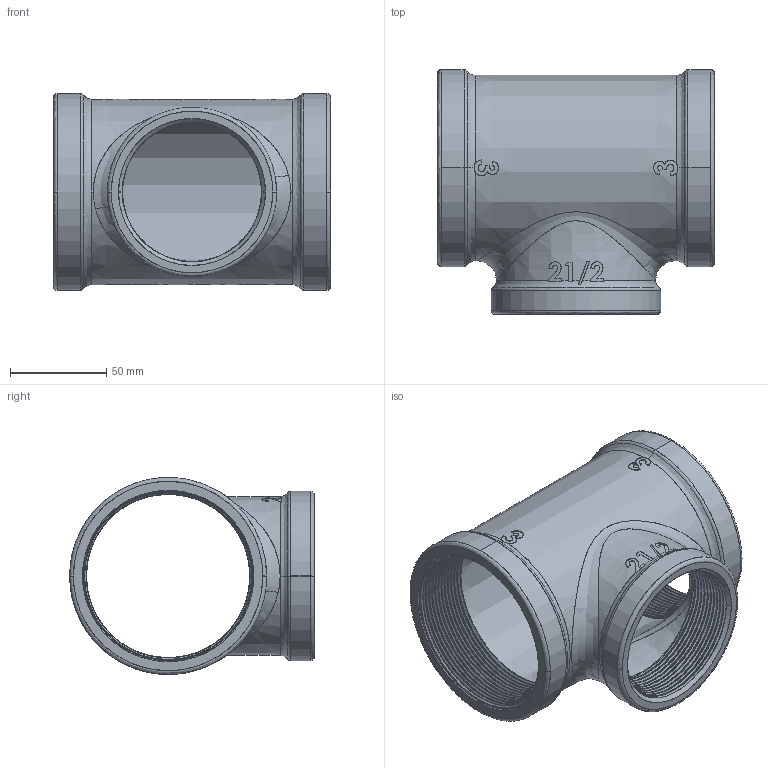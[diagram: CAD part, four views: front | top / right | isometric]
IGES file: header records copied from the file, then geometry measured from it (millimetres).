
Start section: SolidWorks IGES file using analytic representation for surfaces
Global section: file name: C:\Users\Joel Rosa\Desktop\Tubulação\12-45-XXX\12-45-056.IGS; native system: SolidWorks 2011; preprocessor: SolidWorks 2011; author: Joel Rosa; date: 121212.234926; units: millimetre
Bounding box: 144 x 127.2 x 102.4 mm (x, y, z)
Surface area: 113639.9 mm2 (no closed solid volume)
Topology: 0 solids, 0 shells, 567 faces, 5776 edges, 5776 vertices
Faces by surface type: bspline 381, revolution 186
